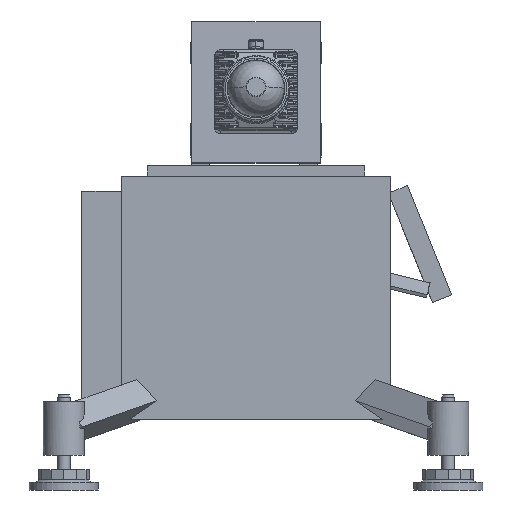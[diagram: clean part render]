
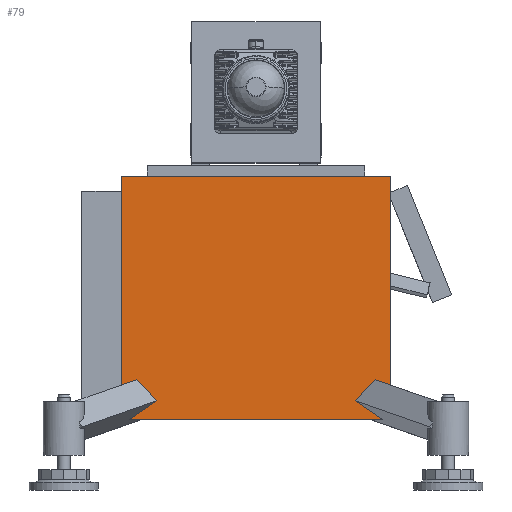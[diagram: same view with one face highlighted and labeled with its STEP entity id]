
A CAD part, left-side view. The second image highlights one B-rep face of the part: STEP entity #79.
In plain terms, the highlighted planar face has unit normal (-1, 0, 0).
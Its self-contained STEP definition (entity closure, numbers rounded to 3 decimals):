
#79 = ADVANCED_FACE('',(#80),#162,.F.);
#80 = FACE_BOUND('',#81,.F.);
#81 = EDGE_LOOP('',(#82,#92,#100,#108,#116,#124,#132,#140,#148,#156));
#82 = ORIENTED_EDGE('',*,*,#83,.F.);
#83 = EDGE_CURVE('',#84,#86,#88,.T.);
#84 = VERTEX_POINT('',#85);
#85 = CARTESIAN_POINT('',(-120.,-105.,78.164));
#86 = VERTEX_POINT('',#87);
#87 = CARTESIAN_POINT('',(-120.,-105.,245.));
#88 = LINE('',#89,#90);
#89 = CARTESIAN_POINT('',(-120.,-105.,55.));
#90 = VECTOR('',#91,1.);
#91 = DIRECTION('',(0.,0.,1.));
#92 = ORIENTED_EDGE('',*,*,#93,.F.);
#93 = EDGE_CURVE('',#94,#84,#96,.T.);
#94 = VERTEX_POINT('',#95);
#95 = CARTESIAN_POINT('',(-120.,-93.323,86.087));
#96 = LINE('',#97,#98);
#97 = CARTESIAN_POINT('',(-120.,-102.089,80.139));
#98 = VECTOR('',#99,1.);
#99 = DIRECTION('',(0.,-0.827,-0.561));
#100 = ORIENTED_EDGE('',*,*,#101,.T.);
#101 = EDGE_CURVE('',#94,#102,#104,.T.);
#102 = VERTEX_POINT('',#103);
#103 = CARTESIAN_POINT('',(-120.,-77.42,69.653));
#104 = LINE('',#105,#106);
#105 = CARTESIAN_POINT('',(-120.,-80.126,72.449));
#106 = VECTOR('',#107,1.);
#107 = DIRECTION('',(-0.,0.695,-0.719));
#108 = ORIENTED_EDGE('',*,*,#109,.T.);
#109 = EDGE_CURVE('',#102,#110,#112,.T.);
#110 = VERTEX_POINT('',#111);
#111 = CARTESIAN_POINT('',(-120.,-99.015,55.));
#112 = LINE('',#113,#114);
#113 = CARTESIAN_POINT('',(-120.,-89.44,61.497));
#114 = VECTOR('',#115,1.);
#115 = DIRECTION('',(0.,-0.827,-0.561));
#116 = ORIENTED_EDGE('',*,*,#117,.T.);
#117 = EDGE_CURVE('',#110,#118,#120,.T.);
#118 = VERTEX_POINT('',#119);
#119 = CARTESIAN_POINT('',(-120.,99.015,55.));
#120 = LINE('',#121,#122);
#121 = CARTESIAN_POINT('',(-120.,-105.,55.));
#122 = VECTOR('',#123,1.);
#123 = DIRECTION('',(-0.,1.,0.));
#124 = ORIENTED_EDGE('',*,*,#125,.T.);
#125 = EDGE_CURVE('',#118,#126,#128,.T.);
#126 = VERTEX_POINT('',#127);
#127 = CARTESIAN_POINT('',(-120.,77.42,69.653));
#128 = LINE('',#129,#130);
#129 = CARTESIAN_POINT('',(-120.,27.184,103.74));
#130 = VECTOR('',#131,1.);
#131 = DIRECTION('',(0.,-0.827,0.561));
#132 = ORIENTED_EDGE('',*,*,#133,.F.);
#133 = EDGE_CURVE('',#134,#126,#136,.T.);
#134 = VERTEX_POINT('',#135);
#135 = CARTESIAN_POINT('',(-120.,93.323,86.087));
#136 = LINE('',#137,#138);
#137 = CARTESIAN_POINT('',(-120.,29.35,19.978));
#138 = VECTOR('',#139,1.);
#139 = DIRECTION('',(0.,-0.695,-0.719));
#140 = ORIENTED_EDGE('',*,*,#141,.F.);
#141 = EDGE_CURVE('',#142,#134,#144,.T.);
#142 = VERTEX_POINT('',#143);
#143 = CARTESIAN_POINT('',(-120.,105.,78.164));
#144 = LINE('',#145,#146);
#145 = CARTESIAN_POINT('',(-120.,39.833,122.382));
#146 = VECTOR('',#147,1.);
#147 = DIRECTION('',(0.,-0.827,0.561));
#148 = ORIENTED_EDGE('',*,*,#149,.T.);
#149 = EDGE_CURVE('',#142,#150,#152,.T.);
#150 = VERTEX_POINT('',#151);
#151 = CARTESIAN_POINT('',(-120.,105.,245.));
#152 = LINE('',#153,#154);
#153 = CARTESIAN_POINT('',(-120.,105.,55.));
#154 = VECTOR('',#155,1.);
#155 = DIRECTION('',(0.,0.,1.));
#156 = ORIENTED_EDGE('',*,*,#157,.F.);
#157 = EDGE_CURVE('',#86,#150,#158,.T.);
#158 = LINE('',#159,#160);
#159 = CARTESIAN_POINT('',(-120.,-105.,245.));
#160 = VECTOR('',#161,1.);
#161 = DIRECTION('',(-0.,1.,0.));
#162 = PLANE('',#163);
#163 = AXIS2_PLACEMENT_3D('',#164,#165,#166);
#164 = CARTESIAN_POINT('',(-120.,-105.,55.));
#165 = DIRECTION('',(1.,0.,-0.));
#166 = DIRECTION('',(0.,0.,1.));
